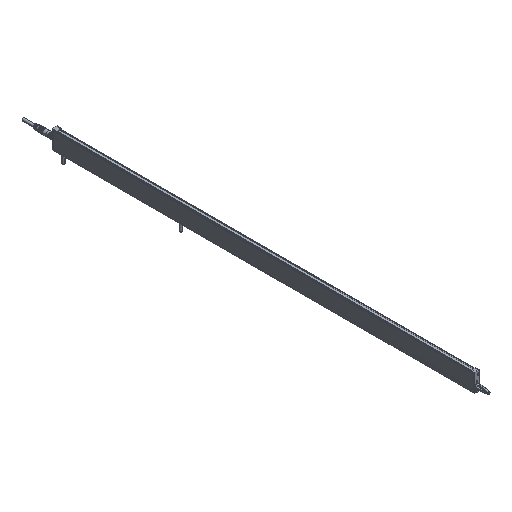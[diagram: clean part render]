
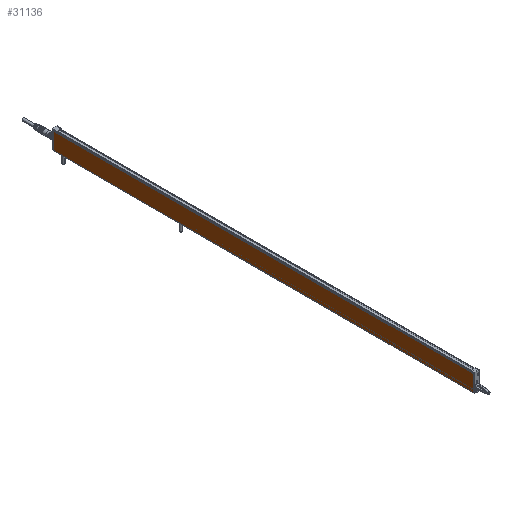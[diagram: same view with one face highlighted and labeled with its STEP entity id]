
A CAD part, isometric view. The second image highlights one B-rep face of the part: STEP entity #31136.
In plain terms, the highlighted planar face has unit normal (-1, 0, 0).
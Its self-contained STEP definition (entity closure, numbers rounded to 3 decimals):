
#176 = CARTESIAN_POINT ( 'NONE',  ( -9., 715., 0.5 ) ) ;
#451 = LINE ( 'NONE', #25223, #33964 ) ;
#555 = EDGE_LOOP ( 'NONE', ( #6093, #4942, #3631, #4209 ) ) ;
#1575 = VERTEX_POINT ( 'NONE', #176 ) ;
#2198 = VECTOR ( 'NONE', #21914, 1000. ) ;
#3631 = ORIENTED_EDGE ( 'NONE', *, *, #19768, .T. ) ;
#3886 = EDGE_CURVE ( 'NONE', #1575, #18271, #451, .T. ) ;
#4209 = ORIENTED_EDGE ( 'NONE', *, *, #3886, .T. ) ;
#4942 = ORIENTED_EDGE ( 'NONE', *, *, #11037, .F. ) ;
#5863 = DIRECTION ( 'NONE',  ( -1., 0., 0. ) ) ;
#6093 = ORIENTED_EDGE ( 'NONE', *, *, #14772, .F. ) ;
#8372 = DIRECTION ( 'NONE',  ( 0., -1., 0. ) ) ;
#10708 = VECTOR ( 'NONE', #19483, 1000. ) ;
#11037 = EDGE_CURVE ( 'NONE', #18484, #25290, #26184, .T. ) ;
#12562 = VECTOR ( 'NONE', #26491, 1000. ) ;
#14772 = EDGE_CURVE ( 'NONE', #25290, #18271, #31980, .T. ) ;
#16680 = CARTESIAN_POINT ( 'NONE',  ( -9., 715., 28.5 ) ) ;
#18271 = VERTEX_POINT ( 'NONE', #31871 ) ;
#18484 = VERTEX_POINT ( 'NONE', #27795 ) ;
#19483 = DIRECTION ( 'NONE',  ( 0., 0., -1. ) ) ;
#19768 = EDGE_CURVE ( 'NONE', #18484, #1575, #21121, .T. ) ;
#19777 = DIRECTION ( 'NONE',  ( 0., -1., 0. ) ) ;
#21121 = LINE ( 'NONE', #24718, #10708 ) ;
#21625 = PLANE ( 'NONE',  #24782 ) ;
#21914 = DIRECTION ( 'NONE',  ( 0., -1., 0. ) ) ;
#24717 = CARTESIAN_POINT ( 'NONE',  ( -9., 0., 28.5 ) ) ;
#24718 = CARTESIAN_POINT ( 'NONE',  ( -9., 715., 28.5 ) ) ;
#24782 = AXIS2_PLACEMENT_3D ( 'NONE', #16680, #5863, #8372 ) ;
#25223 = CARTESIAN_POINT ( 'NONE',  ( -9., 715., 0.5 ) ) ;
#25290 = VERTEX_POINT ( 'NONE', #24717 ) ;
#26184 = LINE ( 'NONE', #29405, #2198 ) ;
#26387 = CARTESIAN_POINT ( 'NONE',  ( -9., 0., 28.5 ) ) ;
#26491 = DIRECTION ( 'NONE',  ( 0., 0., -1. ) ) ;
#27795 = CARTESIAN_POINT ( 'NONE',  ( -9., 715., 28.5 ) ) ;
#28107 = FACE_OUTER_BOUND ( 'NONE', #555, .T. ) ;
#29405 = CARTESIAN_POINT ( 'NONE',  ( -9., 715., 28.5 ) ) ;
#31136 = ADVANCED_FACE ( 'NONE', ( #28107 ), #21625, .T. ) ;
#31871 = CARTESIAN_POINT ( 'NONE',  ( -9., 0., 0.5 ) ) ;
#31980 = LINE ( 'NONE', #26387, #12562 ) ;
#33964 = VECTOR ( 'NONE', #19777, 1000. ) ;
